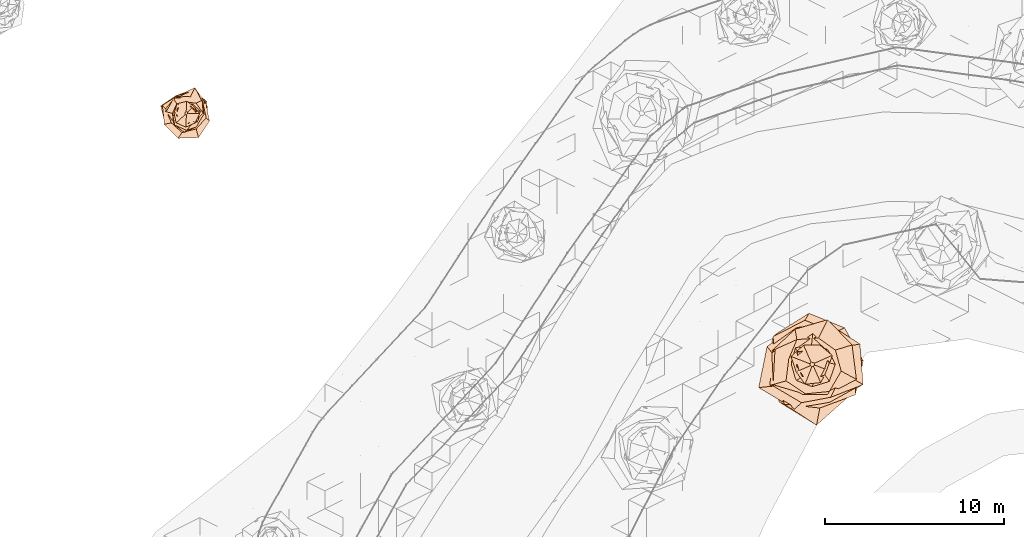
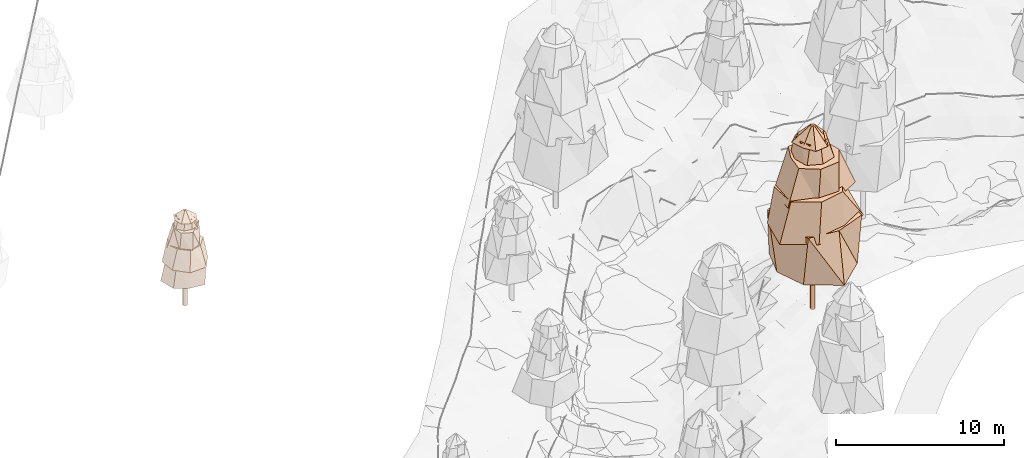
# Not in any storey, part 41 of 88: 2 geographic elements.
"""IFC4 model written with IfcOpenShell, lengths in metres."""

import ifcopenshell
import ifcopenshell.guid

model = None  # the IFC model being written
_history = None  # IfcOwnerHistory: only IFC2X3 demands one
_inside = {}  # id of a spatial element -> (the spatial element, [elements in it])
_under = {}  # id of a project, library or spatial element -> (it, [spatial elements below it])
_declared = {}  # id of a project -> (the project, [libraries it declares])
_typed = {}  # id of a type object -> (the type object, [elements of that type])
_made_of = {}  # id of a material, layer set ... -> (it, [elements and type objects made of it])


def new_model(schema):
    """Start an empty IFC model of exactly this schema.

    Asked for "IFC4X3", IfcOpenShell would pick the latest addendum, in which some entities
    have other attributes; the version numbers below select the first issue.
    IFC2X3 requires an IfcOwnerHistory on every rooted entity: one is made here for all.
    """
    global model, _history
    if schema == "IFC4X3":
        model = ifcopenshell.file(schema_version=(4, 3, 0, 0))
    else:
        model = ifcopenshell.file(schema=schema)
    _inside.clear()
    _under.clear()
    _declared.clear()
    _typed.clear()
    _made_of.clear()
    _history = None
    if model.schema == "IFC2X3":
        org = make("IfcOrganization", Name="unknown")
        user = make(
            "IfcPersonAndOrganization",
            ThePerson=make("IfcPerson", FamilyName="unknown"),
            TheOrganization=org,
        )
        app = make(
            "IfcApplication",
            ApplicationDeveloper=org,
            Version="unknown",
            ApplicationFullName="unknown",
            ApplicationIdentifier="unknown",
        )
        _history = make(
            "IfcOwnerHistory",
            OwningUser=user,
            OwningApplication=app,
            ChangeAction="ADDED",
            CreationDate=0,
        )
    return model


def make(cls, **values):
    """One entity of the class cls with the attributes given. An attribute that is None is left unset."""
    return model.create_entity(
        cls, **{name: value for name, value in values.items() if value is not None}
    )


def rooted(cls, **values):
    """An entity with a GlobalId (a new one), such as an element, a storey or a relation."""
    return make(cls, GlobalId=ifcopenshell.guid.new(), OwnerHistory=_history, **values)


def si_unit(unit_type, name, prefix=None):
    """IfcSIUnit, for example si_unit("LENGTHUNIT", "METRE", prefix="MILLI")."""
    return make("IfcSIUnit", UnitType=unit_type, Prefix=prefix, Name=name)


def assignment(units):
    """IfcUnitAssignment: the units of a project."""
    return None if units is None else make("IfcUnitAssignment", Units=units)


def point(xyz):
    """IfcCartesianPoint."""
    return None if xyz is None else make("IfcCartesianPoint", Coordinates=xyz)


def direction(xyz):
    """IfcDirection."""
    return None if xyz is None else make("IfcDirection", DirectionRatios=xyz)


def frame(location, z_axis=None, x_axis=None):
    """IfcAxis2Placement3D, a coordinate frame: its origin and axes. An axis left out is left unset."""
    return make(
        "IfcAxis2Placement3D",
        Location=point(location),
        Axis=direction(z_axis),
        RefDirection=direction(x_axis),
    )


def origin_with_axes():
    """The frame at (0, 0, 0) with the z axis (0, 0, 1) and the x axis (1, 0, 0) written out."""
    return frame((0.0, 0.0, 0.0), z_axis=(0.0, 0.0, 1.0), x_axis=(1.0, 0.0, 0.0))


def place(relative_to, where):
    """IfcLocalPlacement: puts the frame where relative to a parent placement (None: the world)."""
    return make(
        "IfcLocalPlacement", PlacementRelTo=relative_to, RelativePlacement=where
    )


def context(
    kind, dimensions, precision=None, world=None, true_north=None, identifier=None
):
    """IfcGeometricRepresentationContext, for example the 3D "Model" context."""
    return make(
        "IfcGeometricRepresentationContext",
        ContextIdentifier=identifier,
        ContextType=kind,
        CoordinateSpaceDimension=dimensions,
        Precision=precision,
        WorldCoordinateSystem=world,
        TrueNorth=true_north,
    )


def subcontext(parent, identifier, kind, view, scale=None):
    """IfcGeometricRepresentationSubContext, for example "Body" below "Model"."""
    return make(
        "IfcGeometricRepresentationSubContext",
        ContextIdentifier=identifier,
        ContextType=kind,
        ParentContext=parent,
        TargetScale=scale,
        TargetView=view,
    )


def project(units=None, contexts=None):
    """IfcProject with its units and contexts."""
    return rooted(
        "IfcProject",
        Name="project",
        RepresentationContexts=contexts,
        UnitsInContext=assignment(units),
    )


def spatial(cls, under=None, at=None, **own):
    """A site, building, storey or space (cls), placed at a placement, below another one or the project."""
    s = rooted(cls, ObjectPlacement=at, **own)
    if under is not None:
        _under.setdefault(under.id(), (under, []))[1].append(s)
    return s


def profile(cls, at=None, kind="AREA", **sizes):
    """A parametric profile (cls). Its sizes go by their IFC names, for example OverallWidth=200.0."""
    return make(cls, ProfileType=kind, Position=at, **sizes)


def circle(**sizes):
    """IfcCircleProfileDef."""
    return profile("IfcCircleProfileDef", **sizes)


def extrude(swept, where, along, depth):
    """IfcExtrudedAreaSolid: the profile swept, set in the frame where, extruded along a direction by depth."""
    return make(
        "IfcExtrudedAreaSolid",
        SweptArea=swept,
        Position=where,
        ExtrudedDirection=direction(along),
        Depth=depth,
    )


def faces_of(points, faces, orient=None, outer=None):
    """IfcFace entities. A face is a list of loops; a loop is a list of indices into points, from 0.

    orient and outer hold one flag for each loop. By default every Orientation is true, the
    first loop of a face is its IfcFaceOuterBound and the others are IfcFaceBound.
    """
    made = []
    for i, loops in enumerate(faces):
        bounds = []
        for j, loop in enumerate(loops):
            is_outer = j == 0 if outer is None else outer[i][j]
            bounds.append(
                make(
                    "IfcFaceOuterBound" if is_outer else "IfcFaceBound",
                    Bound=make("IfcPolyLoop", Polygon=[points[k] for k in loop]),
                    Orientation=True if orient is None else orient[i][j],
                )
            )
        made.append(make("IfcFace", Bounds=bounds))
    return made


def faceted_brep(points, faces, orient=None, outer=None, voids=None):
    """IfcFacetedBrep: a solid bounded by flat faces; with voids (closed shells), ...WithVoids."""
    shared = [point(p) for p in points]
    hull = make("IfcClosedShell", CfsFaces=faces_of(shared, faces, orient, outer))
    if voids is None:
        return make("IfcFacetedBrep", Outer=hull)
    return make(
        "IfcFacetedBrepWithVoids",
        Outer=hull,
        Voids=[
            make(cls, CfsFaces=faces_of(shared, fs, o, b)) for cls, fs, o, b in voids
        ],
    )


def shape(context_of_items, identifier, shape_type, items):
    """IfcShapeRepresentation: the items that make up one representation, for example the "Body"."""
    return make(
        "IfcShapeRepresentation",
        ContextOfItems=context_of_items,
        RepresentationIdentifier=identifier,
        RepresentationType=shape_type,
        Items=items,
    )


def made_of(thing, what):
    """Note that an element or type object is made of a material, layer set ...; save() writes the relation."""
    if what is not None:
        _made_of.setdefault(what.id(), (what, []))[1].append(thing)
    return thing


def element(
    cls,
    number,
    at=None,
    inside=None,
    cuts=None,
    type_object=None,
    material=None,
    context=None,
    identifier="Body",
    shape_type=None,
    held_by="IfcProductDefinitionShape",
    body=None,
    shapes=None,
    **own,
):
    """One element of the class cls, such as IfcWall. Its Tag is "e" and its number.

    at: its placement. inside: the storey or other place that contains it. cuts: it is an
    opening in that element (IfcRelVoidsElement). A single representation is given by context,
    identifier, shape_type and body (its items); several are given by shapes. held_by: the class
    of the entity that holds the representations. save() writes the other relations.
    """
    e = rooted(cls, Tag="e%d" % number, ObjectPlacement=at, **own)
    if body is not None:
        shapes = [shape(context, identifier, shape_type, body)]
    if shapes is not None:
        e.Representation = make(held_by, Representations=shapes)
    if inside is not None:
        _inside.setdefault(inside.id(), (inside, []))[1].append(e)
    if cuts is not None:
        rooted(
            "IfcRelVoidsElement", RelatingBuildingElement=cuts, RelatedOpeningElement=e
        )
    if type_object is not None:
        _typed.setdefault(type_object.id(), (type_object, []))[1].append(e)
    return made_of(e, material)


def aggregate(whole, parts):
    """IfcRelAggregates: a whole, such as a stair, and the parts it consists of."""
    return rooted("IfcRelAggregates", RelatingObject=whole, RelatedObjects=parts)


def save(model, path):
    """Write the relations noted so far, then the file.

    IfcRelAggregates (storeys below a building ...), IfcRelContainedInSpatialStructure (elements
    in a storey), IfcRelDefinesByType, IfcRelAssociatesMaterial and IfcRelDeclares: one each for
    every whole, place, type object, material and project.
    """
    for whole, parts in _under.values():
        aggregate(whole, parts)
    for where, things in _inside.values():
        rooted(
            "IfcRelContainedInSpatialStructure",
            RelatedElements=things,
            RelatingStructure=where,
        )
    for kind, things in _typed.values():
        rooted("IfcRelDefinesByType", RelatedObjects=things, RelatingType=kind)
    for what, things in _made_of.values():
        rooted("IfcRelAssociatesMaterial", RelatedObjects=things, RelatingMaterial=what)
    for by, libraries in _declared.values():
        rooted("IfcRelDeclares", RelatingContext=by, RelatedDefinitions=libraries)
    model.write(path)


model = new_model("IFC4")

# Units and contexts
model_context = context("Model", 3, precision=1e-05, world=origin_with_axes())
body_context = subcontext(model_context, "Body", "Model", "MODEL_VIEW")
ifc_project = project(units=[si_unit("LENGTHUNIT", "METRE"), si_unit("AREAUNIT", "SQUARE_METRE"), si_unit("VOLUMEUNIT", "CUBIC_METRE"), si_unit("PLANEANGLEUNIT", "RADIAN")], contexts=[model_context])

# Sites
site_1_placement = place(None, origin_with_axes())
site_1 = spatial("IfcSite", under=ifc_project, at=site_1_placement, Name="CH907857693633", CompositionType="ELEMENT")
site_2_placement = place(None, origin_with_axes())
site_2 = spatial("IfcSite", under=site_1, at=site_2_placement, Name="Vegetation", CompositionType="ELEMENT")

# Geographic element
geographic_element_1_placement = place(None, frame((86.2430000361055, 96.1250034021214, 6.86468505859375), z_axis=(0.0, 0.0, 1.0), x_axis=(1.0, 0.0, 0.0)))
element("IfcGeographicElement", 1, at=geographic_element_1_placement, inside=site_2, Name="Tree_einzelbaum", ObjectType="VEGETATION", PredefinedType="USERDEFINED", context=body_context, shape_type="Brep", body=[
    extrude(circle(Radius=0.15), origin_with_axes(), (0.0, 0.0, 1.0), 1.94870068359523),
    faceted_brep([(1.18529155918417, -0.349477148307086, 1.94870068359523), (0.669975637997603, -1.23024636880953, 1.94870068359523), (-0.32568100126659, -1.10458421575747, 1.94870068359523), (-1.17003278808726, -0.63718413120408, 1.94870068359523), (-1.43924841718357, 0.424355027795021, 1.94870068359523), (-0.549952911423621, 1.00985399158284, 1.94870068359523), (0.398337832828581, 1.35100813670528, 1.94870068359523), (1.16886827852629, 0.636549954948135, 1.94870068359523), (1.05030303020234, 0.716513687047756, 3.538967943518), (0.230759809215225, 1.2214598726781, 3.538967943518), (-0.643022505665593, 0.942575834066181, 3.538967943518), (-1.19758557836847, 0.226249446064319, 3.538967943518), (-0.951689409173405, -0.649239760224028, 3.538967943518), (-0.191203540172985, -1.01208027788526, 3.538967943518), (0.76459495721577, -1.12078305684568, 3.538967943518), (1.15616991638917, -0.218425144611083, 3.538967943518), (1.16886827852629, 0.636549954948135, 1.94870068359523), (0.398337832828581, 1.35100813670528, 1.94870068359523), (0.230759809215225, 1.2214598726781, 3.538967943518), (1.05030303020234, 0.716513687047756, 3.538967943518), (0.398337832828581, 1.35100813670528, 1.94870068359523), (-0.549952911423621, 1.00985399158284, 1.94870068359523), (-0.643022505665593, 0.942575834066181, 3.538967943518), (0.230759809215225, 1.2214598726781, 3.538967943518), (-0.549952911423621, 1.00985399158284, 1.94870068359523), (-1.43924841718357, 0.424355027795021, 1.94870068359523), (-1.19758557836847, 0.226249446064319, 3.538967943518), (-0.643022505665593, 0.942575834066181, 3.538967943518), (-1.43924841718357, 0.424355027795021, 1.94870068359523), (-1.17003278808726, -0.63718413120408, 1.94870068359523), (-0.951689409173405, -0.649239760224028, 3.538967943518), (-1.19758557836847, 0.226249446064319, 3.538967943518), (-1.17003278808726, -0.63718413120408, 1.94870068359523), (-0.32568100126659, -1.10458421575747, 1.94870068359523), (-0.191203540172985, -1.01208027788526, 3.538967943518), (-0.951689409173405, -0.649239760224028, 3.538967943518), (-0.32568100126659, -1.10458421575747, 1.94870068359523), (0.669975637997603, -1.23024636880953, 1.94870068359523), (0.76459495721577, -1.12078305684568, 3.538967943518), (-0.191203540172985, -1.01208027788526, 3.538967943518), (0.669975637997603, -1.23024636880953, 1.94870068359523), (1.18529155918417, -0.349477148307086, 1.94870068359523), (1.15616991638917, -0.218425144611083, 3.538967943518), (0.76459495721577, -1.12078305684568, 3.538967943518), (1.18529155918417, -0.349477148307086, 1.94870068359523), (1.16886827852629, 0.636549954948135, 1.94870068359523), (1.05030303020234, 0.716513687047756, 3.538967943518), (1.15616991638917, -0.218425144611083, 3.538967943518)], [[[0, 1, 2, 3, 4, 5, 6, 7]], [[8, 9, 10, 11, 12, 13, 14, 15]], [[16, 17, 18, 19]], [[20, 21, 22, 23]], [[24, 25, 26, 27]], [[28, 29, 30, 31]], [[32, 33, 34, 35]], [[36, 37, 38, 39]], [[40, 41, 42, 43]], [[44, 45, 46, 47]]]),
    faceted_brep([(1.30045343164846, -0.430081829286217, 3.30042785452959), (0.685285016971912, -1.36253283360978, 3.30042785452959), (-0.462411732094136, -1.39821048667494, 3.30042785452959), (-1.23317986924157, -0.620227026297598, 3.30042785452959), (-1.33683468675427, 0.442113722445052, 3.30042785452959), (-0.490211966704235, 0.974674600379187, 3.30042785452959), (0.47741986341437, 1.44359109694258, 3.30042785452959), (1.09245013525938, 0.549447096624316, 3.30042785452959), (0.924763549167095, 0.587544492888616, 4.64209209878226), (0.178773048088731, 0.801733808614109, 4.64209209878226), (-0.591451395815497, 0.93091280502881, 4.64209209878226), (-1.15860495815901, 0.258349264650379, 4.64209209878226), (-0.838810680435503, -0.532934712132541, 4.64209209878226), (-0.240771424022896, -1.07977456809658, 4.64209209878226), (0.553415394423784, -0.87104617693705, 4.64209209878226), (1.11443637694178, -0.248500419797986, 4.64209209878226), (1.09245013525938, 0.549447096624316, 3.30042785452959), (0.47741986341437, 1.44359109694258, 3.30042785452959), (0.178773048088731, 0.801733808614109, 4.64209209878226), (0.924763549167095, 0.587544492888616, 4.64209209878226), (0.47741986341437, 1.44359109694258, 3.30042785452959), (-0.490211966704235, 0.974674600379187, 3.30042785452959), (-0.591451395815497, 0.93091280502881, 4.64209209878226), (0.178773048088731, 0.801733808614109, 4.64209209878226), (-0.490211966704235, 0.974674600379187, 3.30042785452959), (-1.33683468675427, 0.442113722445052, 3.30042785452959), (-1.15860495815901, 0.258349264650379, 4.64209209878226), (-0.591451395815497, 0.93091280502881, 4.64209209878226), (-1.33683468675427, 0.442113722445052, 3.30042785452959), (-1.23317986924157, -0.620227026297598, 3.30042785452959), (-0.838810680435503, -0.532934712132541, 4.64209209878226), (-1.15860495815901, 0.258349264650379, 4.64209209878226), (-1.23317986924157, -0.620227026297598, 3.30042785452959), (-0.462411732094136, -1.39821048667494, 3.30042785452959), (-0.240771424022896, -1.07977456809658, 4.64209209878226), (-0.838810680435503, -0.532934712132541, 4.64209209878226), (-0.462411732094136, -1.39821048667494, 3.30042785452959), (0.685285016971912, -1.36253283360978, 3.30042785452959), (0.553415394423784, -0.87104617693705, 4.64209209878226), (-0.240771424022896, -1.07977456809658, 4.64209209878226), (0.685285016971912, -1.36253283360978, 3.30042785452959), (1.30045343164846, -0.430081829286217, 3.30042785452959), (1.11443637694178, -0.248500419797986, 4.64209209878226), (0.553415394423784, -0.87104617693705, 4.64209209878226), (1.30045343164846, -0.430081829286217, 3.30042785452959), (1.09245013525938, 0.549447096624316, 3.30042785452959), (0.924763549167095, 0.587544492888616, 4.64209209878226), (1.11443637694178, -0.248500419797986, 4.64209209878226)], [[[0, 1, 2, 3, 4, 5, 6, 7]], [[8, 9, 10, 11, 12, 13, 14, 15]], [[16, 17, 18, 19]], [[20, 21, 22, 23]], [[24, 25, 26, 27]], [[28, 29, 30, 31]], [[32, 33, 34, 35]], [[36, 37, 38, 39]], [[40, 41, 42, 43]], [[44, 45, 46, 47]]]),
    faceted_brep([(1.00106506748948, -0.0919302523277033, 4.44084246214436), (0.617422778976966, -0.742288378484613, 4.44084246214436), (-0.0986170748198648, -1.07388053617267, 4.44084246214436), (-0.70056231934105, -0.582715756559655, 4.44084246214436), (-1.1777466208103, 0.108155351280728, 4.44084246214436), (-0.731260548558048, 0.879148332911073, 4.44084246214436), (0.0875593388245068, 0.95346845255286, 4.44084246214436), (0.885144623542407, 0.736248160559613, 4.44084246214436), (0.552438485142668, 0.561825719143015, 5.79326687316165), (-0.00541332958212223, 0.642561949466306, 5.79326687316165), (-0.537241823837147, 0.528265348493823, 5.79326687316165), (-0.777212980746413, -0.00654771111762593, 5.79326687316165), (-0.645770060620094, -0.656743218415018, 5.79326687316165), (0.00800953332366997, -0.950731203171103, 5.79326687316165), (0.46197126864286, -0.454252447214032, 5.79326687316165), (0.945537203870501, 0.00796577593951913, 5.79326687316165), (0.885144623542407, 0.736248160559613, 4.44084246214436), (0.0875593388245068, 0.95346845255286, 4.44084246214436), (-0.00541332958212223, 0.642561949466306, 5.79326687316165), (0.552438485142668, 0.561825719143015, 5.79326687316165), (0.0875593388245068, 0.95346845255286, 4.44084246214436), (-0.731260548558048, 0.879148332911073, 4.44084246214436), (-0.537241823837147, 0.528265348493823, 5.79326687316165), (-0.00541332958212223, 0.642561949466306, 5.79326687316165), (-0.731260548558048, 0.879148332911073, 4.44084246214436), (-1.1777466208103, 0.108155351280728, 4.44084246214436), (-0.777212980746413, -0.00654771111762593, 5.79326687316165), (-0.537241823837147, 0.528265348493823, 5.79326687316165), (-1.1777466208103, 0.108155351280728, 4.44084246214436), (-0.70056231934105, -0.582715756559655, 4.44084246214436), (-0.645770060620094, -0.656743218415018, 5.79326687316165), (-0.777212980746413, -0.00654771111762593, 5.79326687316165), (-0.70056231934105, -0.582715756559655, 4.44084246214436), (-0.0986170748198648, -1.07388053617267, 4.44084246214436), (0.00800953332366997, -0.950731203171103, 5.79326687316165), (-0.645770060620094, -0.656743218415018, 5.79326687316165), (-0.0986170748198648, -1.07388053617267, 4.44084246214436), (0.617422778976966, -0.742288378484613, 4.44084246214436), (0.46197126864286, -0.454252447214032, 5.79326687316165), (0.00800953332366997, -0.950731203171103, 5.79326687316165), (0.617422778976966, -0.742288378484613, 4.44084246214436), (1.00106506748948, -0.0919302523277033, 4.44084246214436), (0.945537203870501, 0.00796577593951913, 5.79326687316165), (0.46197126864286, -0.454252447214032, 5.79326687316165), (1.00106506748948, -0.0919302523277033, 4.44084246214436), (0.885144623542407, 0.736248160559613, 4.44084246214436), (0.552438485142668, 0.561825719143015, 5.79326687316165), (0.945537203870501, 0.00796577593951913, 5.79326687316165)], [[[0, 1, 2, 3, 4, 5, 6, 7]], [[8, 9, 10, 11, 12, 13, 14, 15]], [[16, 17, 18, 19]], [[20, 21, 22, 23]], [[24, 25, 26, 27]], [[28, 29, 30, 31]], [[32, 33, 34, 35]], [[36, 37, 38, 39]], [[40, 41, 42, 43]], [[44, 45, 46, 47]]]),
    faceted_brep([(0.630299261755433, -0.468121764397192, 5.59040321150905), (0.097625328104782, -0.661212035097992, 5.59040321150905), (-0.417891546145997, -0.562667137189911, 5.59040321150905), (-0.739654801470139, -0.109207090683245, 5.59040321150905), (-0.555591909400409, 0.412636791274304, 5.59040321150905), (-0.0906914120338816, 0.614248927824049, 5.59040321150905), (0.399521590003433, 0.537933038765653, 5.59040321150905), (0.854247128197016, 0.126126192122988, 5.59040321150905), (0.557882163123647, 0.140424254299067, 6.47846166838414), (0.23659580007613, 0.395767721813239, 6.47846166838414), (-0.117014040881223, 0.464877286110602, 6.47846166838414), (-0.492670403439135, 0.294525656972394, 6.47846166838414), (-0.538539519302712, -0.135555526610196, 6.47846166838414), (-0.273500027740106, -0.45749959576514, 6.47846166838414), (0.142142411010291, -0.564708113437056, 6.47846166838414), (0.438143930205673, -0.261928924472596, 6.47846166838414), (0.854247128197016, 0.126126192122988, 5.59040321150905), (0.399521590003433, 0.537933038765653, 5.59040321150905), (0.23659580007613, 0.395767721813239, 6.47846166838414), (0.557882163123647, 0.140424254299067, 6.47846166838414), (0.399521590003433, 0.537933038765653, 5.59040321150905), (-0.0906914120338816, 0.614248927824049, 5.59040321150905), (-0.117014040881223, 0.464877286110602, 6.47846166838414), (0.23659580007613, 0.395767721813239, 6.47846166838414), (-0.0906914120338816, 0.614248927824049, 5.59040321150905), (-0.555591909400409, 0.412636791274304, 5.59040321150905), (-0.492670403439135, 0.294525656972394, 6.47846166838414), (-0.117014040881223, 0.464877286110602, 6.47846166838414), (-0.555591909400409, 0.412636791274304, 5.59040321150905), (-0.739654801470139, -0.109207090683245, 5.59040321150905), (-0.538539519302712, -0.135555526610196, 6.47846166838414), (-0.492670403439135, 0.294525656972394, 6.47846166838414), (-0.739654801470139, -0.109207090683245, 5.59040321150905), (-0.417891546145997, -0.562667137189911, 5.59040321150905), (-0.273500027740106, -0.45749959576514, 6.47846166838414), (-0.538539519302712, -0.135555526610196, 6.47846166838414), (-0.417891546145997, -0.562667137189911, 5.59040321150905), (0.097625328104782, -0.661212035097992, 5.59040321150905), (0.142142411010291, -0.564708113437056, 6.47846166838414), (-0.273500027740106, -0.45749959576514, 6.47846166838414), (0.097625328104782, -0.661212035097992, 5.59040321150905), (0.630299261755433, -0.468121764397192, 5.59040321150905), (0.438143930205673, -0.261928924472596, 6.47846166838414), (0.142142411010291, -0.564708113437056, 6.47846166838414), (0.630299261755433, -0.468121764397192, 5.59040321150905), (0.854247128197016, 0.126126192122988, 5.59040321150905), (0.557882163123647, 0.140424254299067, 6.47846166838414), (0.438143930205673, -0.261928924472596, 6.47846166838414)], [[[0, 1, 2, 3, 4, 5, 6, 7]], [[8, 9, 10, 11, 12, 13, 14, 15]], [[16, 17, 18, 19]], [[20, 21, 22, 23]], [[24, 25, 26, 27]], [[28, 29, 30, 31]], [[32, 33, 34, 35]], [[36, 37, 38, 39]], [[40, 41, 42, 43]], [[44, 45, 46, 47]]]),
    faceted_brep([(0.745229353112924, -0.0254419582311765, 6.34525289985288), (0.498771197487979, -0.534030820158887, 6.34525289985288), (-0.0263880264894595, -0.772940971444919, 6.34525289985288), (-0.56762206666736, -0.530144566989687, 6.34525289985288), (-0.687215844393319, 0.0234613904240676, 6.34525289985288), (-0.504225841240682, 0.539871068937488, 6.34525289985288), (0.0230495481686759, 0.675152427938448, 6.34525289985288), (0.41874109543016, 0.391093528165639, 6.34525289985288), (0.0545815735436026, 0.0622915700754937, 6.87522725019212), (-0.00682717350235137, 0.103490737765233, 6.87522725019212), (-0.0617295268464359, 0.054089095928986, 6.87522725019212), (-0.0801549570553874, -0.00528773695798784, 6.87522725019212), (-0.0672693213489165, -0.0767715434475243, 6.87522725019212), (0.00616515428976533, -0.0934554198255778, 6.87522725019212), (0.0525296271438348, -0.046027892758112, 6.87522725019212), (0.0815985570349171, 0.00538296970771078, 6.87522725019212), (0.41874109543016, 0.391093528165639, 6.34525289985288), (0.0230495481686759, 0.675152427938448, 6.34525289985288), (-0.00682717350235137, 0.103490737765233, 6.87522725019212), (0.0545815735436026, 0.0622915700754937, 6.87522725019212), (0.0230495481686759, 0.675152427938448, 6.34525289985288), (-0.504225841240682, 0.539871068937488, 6.34525289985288), (-0.0617295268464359, 0.054089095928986, 6.87522725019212), (-0.00682717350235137, 0.103490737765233, 6.87522725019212), (-0.504225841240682, 0.539871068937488, 6.34525289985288), (-0.687215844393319, 0.0234613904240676, 6.34525289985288), (-0.0801549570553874, -0.00528773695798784, 6.87522725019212), (-0.0617295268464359, 0.054089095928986, 6.87522725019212), (-0.687215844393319, 0.0234613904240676, 6.34525289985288), (-0.56762206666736, -0.530144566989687, 6.34525289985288), (-0.0672693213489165, -0.0767715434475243, 6.87522725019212), (-0.0801549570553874, -0.00528773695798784, 6.87522725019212), (-0.56762206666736, -0.530144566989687, 6.34525289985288), (-0.0263880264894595, -0.772940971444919, 6.34525289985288), (0.00616515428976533, -0.0934554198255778, 6.87522725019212), (-0.0672693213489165, -0.0767715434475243, 6.87522725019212), (-0.0263880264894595, -0.772940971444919, 6.34525289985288), (0.498771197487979, -0.534030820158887, 6.34525289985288), (0.0525296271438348, -0.046027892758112, 6.87522725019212), (0.00616515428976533, -0.0934554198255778, 6.87522725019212), (0.498771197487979, -0.534030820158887, 6.34525289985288), (0.745229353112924, -0.0254419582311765, 6.34525289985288), (0.0815985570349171, 0.00538296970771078, 6.87522725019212), (0.0525296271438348, -0.046027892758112, 6.87522725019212), (0.745229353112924, -0.0254419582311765, 6.34525289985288), (0.41874109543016, 0.391093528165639, 6.34525289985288), (0.0545815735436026, 0.0622915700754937, 6.87522725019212), (0.0815985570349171, 0.00538296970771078, 6.87522725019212)], [[[0, 1, 2, 3, 4, 5, 6, 7]], [[8, 9, 10, 11, 12, 13, 14, 15]], [[16, 17, 18, 19]], [[20, 21, 22, 23]], [[24, 25, 26, 27]], [[28, 29, 30, 31]], [[32, 33, 34, 35]], [[36, 37, 38, 39]], [[40, 41, 42, 43]], [[44, 45, 46, 47]]]),
])

# Site
site_3_placement = place(None, origin_with_axes())
site_3 = spatial("IfcSite", under=site_1, at=site_3_placement, Name="Simulated_forest", CompositionType="ELEMENT")

# Geographic element
geographic_element_2_placement = place(None, frame((121.277879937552, 82.0736830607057, 2.82281494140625), z_axis=(0.0, 0.0, 1.0), x_axis=(1.0, 0.0, 0.0)))
element("IfcGeographicElement", 2, at=geographic_element_2_placement, inside=site_3, Name="Tree_SIMULATED_WOODED_AREA", ObjectType="VEGETATION", PredefinedType="USERDEFINED", context=body_context, shape_type="Brep", body=[
    extrude(circle(Radius=0.15), origin_with_axes(), (0.0, 0.0, 1.0), 3.65055363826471),
    faceted_brep([(2.04497808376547, -1.78469935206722, 3.65055363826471), (0.230862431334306, -3.39685320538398, 3.65055363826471), (-1.84587052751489, -2.11507040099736, 3.65055363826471), (-2.55417358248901, -0.173590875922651, 3.65055363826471), (-1.98861017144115, 1.735505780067, 3.65055363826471), (-0.194383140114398, 2.860105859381, 3.65055363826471), (1.79105242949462, 2.05225768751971, 3.65055363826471), (2.85496023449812, 0.194033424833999, 3.65055363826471), (2.44980051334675, 0.415128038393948, 6.98881390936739), (1.28066107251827, 1.80323984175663, 6.98881390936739), (-0.418556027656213, 2.47003015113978, 6.98881390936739), (-2.20054976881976, 1.56283061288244, 6.98881390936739), (-2.07202698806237, -0.351112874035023, 6.98881390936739), (-1.57837338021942, -2.22243482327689, 6.98881390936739), (0.413516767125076, -2.4402918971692, 6.98881390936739), (2.40006603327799, -1.70452707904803, 6.98881390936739), (2.85496023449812, 0.194033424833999, 3.65055363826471), (1.79105242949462, 2.05225768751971, 3.65055363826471), (1.28066107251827, 1.80323984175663, 6.98881390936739), (2.44980051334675, 0.415128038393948, 6.98881390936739), (1.79105242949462, 2.05225768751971, 3.65055363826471), (-0.194383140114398, 2.860105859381, 3.65055363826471), (-0.418556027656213, 2.47003015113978, 6.98881390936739), (1.28066107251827, 1.80323984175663, 6.98881390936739), (-0.194383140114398, 2.860105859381, 3.65055363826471), (-1.98861017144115, 1.735505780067, 3.65055363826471), (-2.20054976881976, 1.56283061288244, 6.98881390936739), (-0.418556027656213, 2.47003015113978, 6.98881390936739), (-1.98861017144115, 1.735505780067, 3.65055363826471), (-2.55417358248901, -0.173590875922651, 3.65055363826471), (-2.07202698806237, -0.351112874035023, 6.98881390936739), (-2.20054976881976, 1.56283061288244, 6.98881390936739), (-2.55417358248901, -0.173590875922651, 3.65055363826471), (-1.84587052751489, -2.11507040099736, 3.65055363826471), (-1.57837338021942, -2.22243482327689, 6.98881390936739), (-2.07202698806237, -0.351112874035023, 6.98881390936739), (-1.84587052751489, -2.11507040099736, 3.65055363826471), (0.230862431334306, -3.39685320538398, 3.65055363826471), (0.413516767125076, -2.4402918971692, 6.98881390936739), (-1.57837338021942, -2.22243482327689, 6.98881390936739), (0.230862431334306, -3.39685320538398, 3.65055363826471), (2.04497808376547, -1.78469935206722, 3.65055363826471), (2.40006603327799, -1.70452707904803, 6.98881390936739), (0.413516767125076, -2.4402918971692, 6.98881390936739), (2.04497808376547, -1.78469935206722, 3.65055363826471), (2.85496023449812, 0.194033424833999, 3.65055363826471), (2.44980051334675, 0.415128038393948, 6.98881390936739), (2.40006603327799, -1.70452707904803, 6.98881390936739)], [[[0, 1, 2, 3, 4, 5, 6, 7]], [[8, 9, 10, 11, 12, 13, 14, 15]], [[16, 17, 18, 19]], [[20, 21, 22, 23]], [[24, 25, 26, 27]], [[28, 29, 30, 31]], [[32, 33, 34, 35]], [[36, 37, 38, 39]], [[40, 41, 42, 43]], [[44, 45, 46, 47]]]),
    faceted_brep([(2.84521650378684, -1.13038738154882, 6.48807486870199), (0.941458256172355, -2.18264610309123, 6.48807486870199), (-0.992201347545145, -2.49739840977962, 6.48807486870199), (-3.00421779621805, -1.29583336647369, 6.48807486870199), (-2.53536605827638, 1.00728566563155, 6.48807486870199), (-0.928295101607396, 2.1521290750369, 6.48807486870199), (0.901203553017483, 2.26835442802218, 6.48807486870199), (2.65514967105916, 1.14526701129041, 6.48807486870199), (1.7506838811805, 0.972895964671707, 9.2479979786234), (0.531788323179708, 1.86216310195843, 9.2479979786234), (-0.848949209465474, 1.52764709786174, 9.2479979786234), (-2.2708320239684, 0.648494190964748, 9.2479979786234), (-2.18222903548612, -1.21271569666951, 9.2479979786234), (-0.611866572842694, -2.1425730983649, 9.2479979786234), (1.02185634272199, -1.83878594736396, 9.2479979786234), (1.67337534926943, -0.477875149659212, 9.2479979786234), (2.65514967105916, 1.14526701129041, 6.48807486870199), (0.901203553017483, 2.26835442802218, 6.48807486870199), (0.531788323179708, 1.86216310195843, 9.2479979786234), (1.7506838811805, 0.972895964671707, 9.2479979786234), (0.901203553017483, 2.26835442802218, 6.48807486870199), (-0.928295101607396, 2.1521290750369, 6.48807486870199), (-0.848949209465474, 1.52764709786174, 9.2479979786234), (0.531788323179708, 1.86216310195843, 9.2479979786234), (-0.928295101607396, 2.1521290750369, 6.48807486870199), (-2.53536605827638, 1.00728566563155, 6.48807486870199), (-2.2708320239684, 0.648494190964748, 9.2479979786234), (-0.848949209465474, 1.52764709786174, 9.2479979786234), (-2.53536605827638, 1.00728566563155, 6.48807486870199), (-3.00421779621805, -1.29583336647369, 6.48807486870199), (-2.18222903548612, -1.21271569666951, 9.2479979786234), (-2.2708320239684, 0.648494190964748, 9.2479979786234), (-3.00421779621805, -1.29583336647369, 6.48807486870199), (-0.992201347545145, -2.49739840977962, 6.48807486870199), (-0.611866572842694, -2.1425730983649, 9.2479979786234), (-2.18222903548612, -1.21271569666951, 9.2479979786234), (-0.992201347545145, -2.49739840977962, 6.48807486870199), (0.941458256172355, -2.18264610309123, 6.48807486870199), (1.02185634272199, -1.83878594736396, 9.2479979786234), (-0.611866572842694, -2.1425730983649, 9.2479979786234), (0.941458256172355, -2.18264610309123, 6.48807486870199), (2.84521650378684, -1.13038738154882, 6.48807486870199), (1.67337534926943, -0.477875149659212, 9.2479979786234), (1.02185634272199, -1.83878594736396, 9.2479979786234), (2.84521650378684, -1.13038738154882, 6.48807486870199), (2.65514967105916, 1.14526701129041, 6.48807486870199), (1.7506838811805, 0.972895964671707, 9.2479979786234), (1.67337534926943, -0.477875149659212, 9.2479979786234)], [[[0, 1, 2, 3, 4, 5, 6, 7]], [[8, 9, 10, 11, 12, 13, 14, 15]], [[16, 17, 18, 19]], [[20, 21, 22, 23]], [[24, 25, 26, 27]], [[28, 29, 30, 31]], [[32, 33, 34, 35]], [[36, 37, 38, 39]], [[40, 41, 42, 43]], [[44, 45, 46, 47]]]),
    faceted_brep([(2.46323021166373, -0.836311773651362, 8.83400951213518), (0.838333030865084, -1.70021739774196, 8.83400951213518), (-0.57796124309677, -1.7022976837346, 8.83400951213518), (-2.37223536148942, -1.16968763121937, 8.83400951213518), (-2.26116081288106, 0.767705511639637, 8.83400951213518), (-0.971474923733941, 1.97024154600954, 8.83400951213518), (0.849858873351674, 2.50313115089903, 8.83400951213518), (2.21678174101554, 1.0930374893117, 8.83400951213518), (1.28599828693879, 0.802841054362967, 11.2467590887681), (0.341624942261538, 1.47695112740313, 11.2467590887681), (-0.868816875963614, 1.39167897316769, 11.2467590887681), (-1.32278885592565, 0.305966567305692, 11.2467590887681), (-1.47812203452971, -0.922782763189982, 11.2467590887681), (-0.380601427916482, -1.645458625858, 11.2467590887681), (0.944535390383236, -1.51296559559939, 11.2467590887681), (1.61011743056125, -0.372426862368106, 11.2467590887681), (2.21678174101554, 1.0930374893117, 8.83400951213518), (0.849858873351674, 2.50313115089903, 8.83400951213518), (0.341624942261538, 1.47695112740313, 11.2467590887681), (1.28599828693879, 0.802841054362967, 11.2467590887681), (0.849858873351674, 2.50313115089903, 8.83400951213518), (-0.971474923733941, 1.97024154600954, 8.83400951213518), (-0.868816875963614, 1.39167897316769, 11.2467590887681), (0.341624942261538, 1.47695112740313, 11.2467590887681), (-0.971474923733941, 1.97024154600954, 8.83400951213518), (-2.26116081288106, 0.767705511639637, 8.83400951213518), (-1.32278885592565, 0.305966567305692, 11.2467590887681), (-0.868816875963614, 1.39167897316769, 11.2467590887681), (-2.26116081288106, 0.767705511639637, 8.83400951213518), (-2.37223536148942, -1.16968763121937, 8.83400951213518), (-1.47812203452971, -0.922782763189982, 11.2467590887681), (-1.32278885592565, 0.305966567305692, 11.2467590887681), (-2.37223536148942, -1.16968763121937, 8.83400951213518), (-0.57796124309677, -1.7022976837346, 8.83400951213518), (-0.380601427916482, -1.645458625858, 11.2467590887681), (-1.47812203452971, -0.922782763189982, 11.2467590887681), (-0.57796124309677, -1.7022976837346, 8.83400951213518), (0.838333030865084, -1.70021739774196, 8.83400951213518), (0.944535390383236, -1.51296559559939, 11.2467590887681), (-0.380601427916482, -1.645458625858, 11.2467590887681), (0.838333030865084, -1.70021739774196, 8.83400951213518), (2.46323021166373, -0.836311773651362, 8.83400951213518), (1.61011743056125, -0.372426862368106, 11.2467590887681), (0.944535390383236, -1.51296559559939, 11.2467590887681), (2.46323021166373, -0.836311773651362, 8.83400951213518), (2.21678174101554, 1.0930374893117, 8.83400951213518), (1.28599828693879, 0.802841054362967, 11.2467590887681), (1.61011743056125, -0.372426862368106, 11.2467590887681)], [[[0, 1, 2, 3, 4, 5, 6, 7]], [[8, 9, 10, 11, 12, 13, 14, 15]], [[16, 17, 18, 19]], [[20, 21, 22, 23]], [[24, 25, 26, 27]], [[28, 29, 30, 31]], [[32, 33, 34, 35]], [[36, 37, 38, 39]], [[40, 41, 42, 43]], [[44, 45, 46, 47]]]),
    faceted_brep([(1.37766719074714, -0.0147606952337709, 10.8848466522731), (1.02408195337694, -1.04626419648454, 10.8848466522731), (-0.014544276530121, -1.35746807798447, 10.8848466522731), (-0.989454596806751, -0.968476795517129, 10.8848466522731), (-1.26437245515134, 0.0135468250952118, 10.8848466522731), (-0.985890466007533, 1.00724545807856, 10.8848466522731), (0.0185034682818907, 1.72699325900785, 10.8848466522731), (0.924254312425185, 0.904658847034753, 10.8848466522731), (0.527392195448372, 0.631105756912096, 12.4670349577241), (-0.0753991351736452, 0.842221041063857, 12.4670349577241), (-0.818679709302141, 0.684140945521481, 12.4670349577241), (-0.871344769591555, -0.0780064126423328, 12.4670349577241), (-0.550325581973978, -0.658549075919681, 12.4670349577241), (0.0746427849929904, -0.833772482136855, 12.4670349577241), (0.695689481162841, -0.581362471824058, 12.4670349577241), (0.948504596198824, 0.0849140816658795, 12.4670349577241), (0.924254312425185, 0.904658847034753, 10.8848466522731), (0.0185034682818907, 1.72699325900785, 10.8848466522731), (-0.0753991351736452, 0.842221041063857, 12.4670349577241), (0.527392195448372, 0.631105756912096, 12.4670349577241), (0.0185034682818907, 1.72699325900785, 10.8848466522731), (-0.985890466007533, 1.00724545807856, 10.8848466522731), (-0.818679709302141, 0.684140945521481, 12.4670349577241), (-0.0753991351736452, 0.842221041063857, 12.4670349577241), (-0.985890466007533, 1.00724545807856, 10.8848466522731), (-1.26437245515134, 0.0135468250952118, 10.8848466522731), (-0.871344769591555, -0.0780064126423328, 12.4670349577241), (-0.818679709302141, 0.684140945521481, 12.4670349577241), (-1.26437245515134, 0.0135468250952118, 10.8848466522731), (-0.989454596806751, -0.968476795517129, 10.8848466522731), (-0.550325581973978, -0.658549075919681, 12.4670349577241), (-0.871344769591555, -0.0780064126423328, 12.4670349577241), (-0.989454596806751, -0.968476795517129, 10.8848466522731), (-0.014544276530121, -1.35746807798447, 10.8848466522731), (0.0746427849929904, -0.833772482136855, 12.4670349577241), (-0.550325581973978, -0.658549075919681, 12.4670349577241), (-0.014544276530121, -1.35746807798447, 10.8848466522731), (1.02408195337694, -1.04626419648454, 10.8848466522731), (0.695689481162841, -0.581362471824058, 12.4670349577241), (0.0746427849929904, -0.833772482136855, 12.4670349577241), (1.02408195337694, -1.04626419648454, 10.8848466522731), (1.37766719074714, -0.0147606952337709, 10.8848466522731), (0.948504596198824, 0.0849140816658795, 12.4670349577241), (0.695689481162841, -0.581362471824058, 12.4670349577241), (1.37766719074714, -0.0147606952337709, 10.8848466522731), (0.924254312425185, 0.904658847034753, 10.8848466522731), (0.527392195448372, 0.631105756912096, 12.4670349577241), (0.948504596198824, 0.0849140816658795, 12.4670349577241)], [[[0, 1, 2, 3, 4, 5, 6, 7]], [[8, 9, 10, 11, 12, 13, 14, 15]], [[16, 17, 18, 19]], [[20, 21, 22, 23]], [[24, 25, 26, 27]], [[28, 29, 30, 31]], [[32, 33, 34, 35]], [[36, 37, 38, 39]], [[40, 41, 42, 43]], [[44, 45, 46, 47]]]),
    faceted_brep([(0.845104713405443, -0.31360177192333, 12.2297067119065), (0.464799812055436, -1.01328988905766, 12.2297067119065), (-0.412149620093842, -1.11067480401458, 12.2297067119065), (-0.90516150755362, -0.415200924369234, 12.2297067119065), (-1.20029206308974, 0.445404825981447, 12.2297067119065), (-0.492105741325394, 1.07281835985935, 12.2297067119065), (0.405909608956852, 1.0938590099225, 12.2297067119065), (1.11047927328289, 0.509380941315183, 12.2297067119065), (0.11604539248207, 0.0680036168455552, 13.3469309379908), (0.0283910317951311, 0.108766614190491, 13.3469309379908), (-0.0782065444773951, 0.133456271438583, 13.3469309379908), (-0.13760987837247, 0.0359199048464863, 13.3469309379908), (-0.114786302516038, -0.0672657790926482, 13.3469309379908), (-0.0346495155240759, -0.132742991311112, 13.3469309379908), (0.0555641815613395, -0.0948180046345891, 13.3469309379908), (0.125957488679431, -0.0328783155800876, 13.3469309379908), (1.11047927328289, 0.509380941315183, 12.2297067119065), (0.405909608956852, 1.0938590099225, 12.2297067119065), (0.0283910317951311, 0.108766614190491, 13.3469309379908), (0.11604539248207, 0.0680036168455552, 13.3469309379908), (0.405909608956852, 1.0938590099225, 12.2297067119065), (-0.492105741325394, 1.07281835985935, 12.2297067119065), (-0.0782065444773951, 0.133456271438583, 13.3469309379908), (0.0283910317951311, 0.108766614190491, 13.3469309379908), (-0.492105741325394, 1.07281835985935, 12.2297067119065), (-1.20029206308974, 0.445404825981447, 12.2297067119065), (-0.13760987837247, 0.0359199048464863, 13.3469309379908), (-0.0782065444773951, 0.133456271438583, 13.3469309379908), (-1.20029206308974, 0.445404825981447, 12.2297067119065), (-0.90516150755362, -0.415200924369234, 12.2297067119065), (-0.114786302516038, -0.0672657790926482, 13.3469309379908), (-0.13760987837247, 0.0359199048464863, 13.3469309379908), (-0.90516150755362, -0.415200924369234, 12.2297067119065), (-0.412149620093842, -1.11067480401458, 12.2297067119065), (-0.0346495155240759, -0.132742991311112, 13.3469309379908), (-0.114786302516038, -0.0672657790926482, 13.3469309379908), (-0.412149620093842, -1.11067480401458, 12.2297067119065), (0.464799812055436, -1.01328988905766, 12.2297067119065), (0.0555641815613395, -0.0948180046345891, 13.3469309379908), (-0.0346495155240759, -0.132742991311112, 13.3469309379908), (0.464799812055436, -1.01328988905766, 12.2297067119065), (0.845104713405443, -0.31360177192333, 12.2297067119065), (0.125957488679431, -0.0328783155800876, 13.3469309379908), (0.0555641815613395, -0.0948180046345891, 13.3469309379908), (0.845104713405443, -0.31360177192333, 12.2297067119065), (1.11047927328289, 0.509380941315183, 12.2297067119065), (0.11604539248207, 0.0680036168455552, 13.3469309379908), (0.125957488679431, -0.0328783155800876, 13.3469309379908)], [[[0, 1, 2, 3, 4, 5, 6, 7]], [[8, 9, 10, 11, 12, 13, 14, 15]], [[16, 17, 18, 19]], [[20, 21, 22, 23]], [[24, 25, 26, 27]], [[28, 29, 30, 31]], [[32, 33, 34, 35]], [[36, 37, 38, 39]], [[40, 41, 42, 43]], [[44, 45, 46, 47]]]),
])

save(model, "model.ifc")
